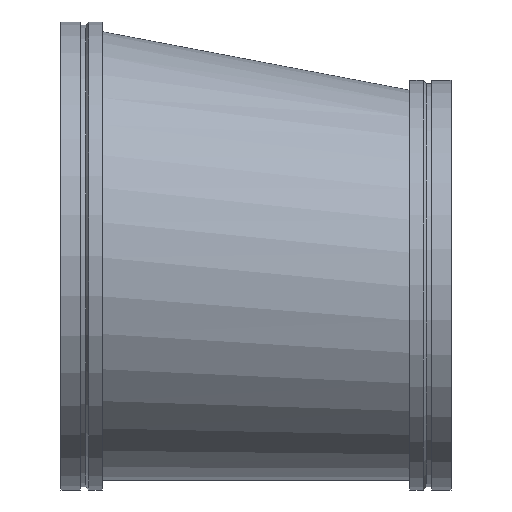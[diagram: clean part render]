
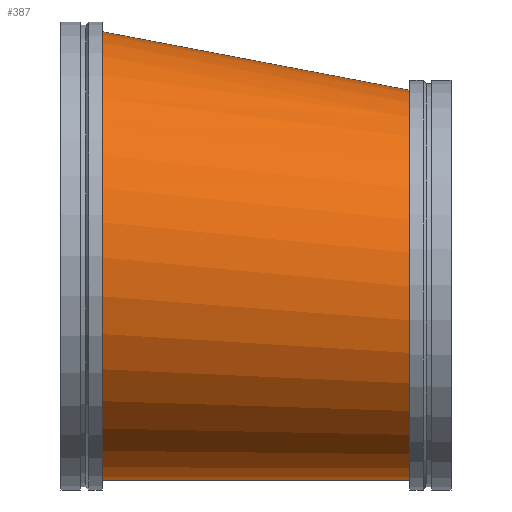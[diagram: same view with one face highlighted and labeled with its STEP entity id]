
A CAD part, top view. The second image highlights one B-rep face of the part: STEP entity #387.
In plain terms, the highlighted free-form (B-spline) face has degree [1, 2] with [2, 9] control points.
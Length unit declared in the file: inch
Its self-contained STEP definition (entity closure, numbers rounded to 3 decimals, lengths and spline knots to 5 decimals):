
#46=B_SPLINE_CURVE_WITH_KNOTS('',1,(#747,#748),.UNSPECIFIED.,.F.,.F.,(2,
2),(-1.38261,-0.00084),.UNSPECIFIED.);
#48=(
BOUNDED_SURFACE()
B_SPLINE_SURFACE(1,2,((#729,#730,#731,#732,#733,#734,#735,#736,#737),(#738,
#739,#740,#741,#742,#743,#744,#745,#746)),.UNSPECIFIED.,.F.,.T.,.F.)
B_SPLINE_SURFACE_WITH_KNOTS((2,2),(3,2,2,2,3),(-0.09439,1.46395),
(-3.14159,-1.5708,0.,1.5708,3.14159),
 .UNSPECIFIED.)
GEOMETRIC_REPRESENTATION_ITEM()
RATIONAL_B_SPLINE_SURFACE(((1.,0.707,1.,0.707,1.,
0.707,1.,0.707,1.),(1.,0.707,1.,0.707,
1.,0.707,1.,0.707,1.)))
REPRESENTATION_ITEM('')
SURFACE()
);
#98=FACE_OUTER_BOUND('',#120,.T.);
#120=EDGE_LOOP('',(#321,#322,#323,#324,#325,#326));
#129=CIRCLE('',#415,20.);
#130=CIRCLE('',#416,20.);
#153=CIRCLE('',#450,23.);
#154=CIRCLE('',#451,23.);
#166=VERTEX_POINT('',#628);
#167=VERTEX_POINT('',#629);
#190=VERTEX_POINT('',#695);
#191=VERTEX_POINT('',#696);
#203=EDGE_CURVE('',#166,#167,#129,.T.);
#204=EDGE_CURVE('',#167,#166,#130,.T.);
#235=EDGE_CURVE('',#190,#191,#153,.T.);
#236=EDGE_CURVE('',#191,#190,#154,.T.);
#243=EDGE_CURVE('',#167,#191,#46,.T.);
#321=ORIENTED_EDGE('',*,*,#203,.T.);
#322=ORIENTED_EDGE('',*,*,#243,.T.);
#323=ORIENTED_EDGE('',*,*,#236,.T.);
#324=ORIENTED_EDGE('',*,*,#235,.T.);
#325=ORIENTED_EDGE('',*,*,#243,.F.);
#326=ORIENTED_EDGE('',*,*,#204,.T.);
#387=ADVANCED_FACE('',(#98),#48,.F.);
#415=AXIS2_PLACEMENT_3D('',#630,#486,#487);
#416=AXIS2_PLACEMENT_3D('',#631,#488,#489);
#450=AXIS2_PLACEMENT_3D('',#697,#564,#565);
#451=AXIS2_PLACEMENT_3D('',#698,#566,#567);
#486=DIRECTION('center_axis',(-1.,0.,0.));
#487=DIRECTION('ref_axis',(0.,-1.,0.));
#488=DIRECTION('center_axis',(-1.,0.,0.));
#489=DIRECTION('ref_axis',(0.,-1.,0.));
#564=DIRECTION('center_axis',(1.,0.,0.));
#565=DIRECTION('ref_axis',(0.,1.,0.));
#566=DIRECTION('center_axis',(1.,0.,0.));
#567=DIRECTION('ref_axis',(0.,1.,0.));
#628=CARTESIAN_POINT('',(35.75,-23.,0.));
#629=CARTESIAN_POINT('',(35.75,-3.17819,19.99921));
#630=CARTESIAN_POINT('Origin',(35.75,-3.,0.));
#631=CARTESIAN_POINT('Origin',(35.75,-3.,0.));
#695=CARTESIAN_POINT('',(4.25,23.,0.));
#696=CARTESIAN_POINT('',(4.25,-0.20492,22.99909));
#697=CARTESIAN_POINT('Origin',(4.25,0.,0.));
#698=CARTESIAN_POINT('Origin',(4.25,0.,0.));
#729=CARTESIAN_POINT('Ctrl Pts',(2.07904,0.,
23.20584));
#730=CARTESIAN_POINT('Ctrl Pts',(-0.09192,-23.,
23.20584));
#731=CARTESIAN_POINT('Ctrl Pts',(-0.09192,-23.,
0.));
#732=CARTESIAN_POINT('Ctrl Pts',(-0.09192,-23.,
-23.20584));
#733=CARTESIAN_POINT('Ctrl Pts',(2.07904,0.,
-23.20584));
#734=CARTESIAN_POINT('Ctrl Pts',(4.25,23.,-23.20584));
#735=CARTESIAN_POINT('Ctrl Pts',(4.25,23.,0.));
#736=CARTESIAN_POINT('Ctrl Pts',(4.25,23.,23.20584));
#737=CARTESIAN_POINT('Ctrl Pts',(2.07904,0.,
23.20584));
#738=CARTESIAN_POINT('Ctrl Pts',(37.60445,-3.35323,19.8226));
#739=CARTESIAN_POINT('Ctrl Pts',(35.75,-23.,19.8226));
#740=CARTESIAN_POINT('Ctrl Pts',(35.75,-23.,0.));
#741=CARTESIAN_POINT('Ctrl Pts',(35.75,-23.,-19.8226));
#742=CARTESIAN_POINT('Ctrl Pts',(37.60445,-3.35323,-19.8226));
#743=CARTESIAN_POINT('Ctrl Pts',(39.4589,16.29354,-19.8226));
#744=CARTESIAN_POINT('Ctrl Pts',(39.4589,16.29354,0.));
#745=CARTESIAN_POINT('Ctrl Pts',(39.4589,16.29354,19.8226));
#746=CARTESIAN_POINT('Ctrl Pts',(37.60445,-3.35323,19.8226));
#747=CARTESIAN_POINT('Ctrl Pts',(35.75,-3.17819,19.99921));
#748=CARTESIAN_POINT('Ctrl Pts',(4.25,-0.20492,22.99909));
